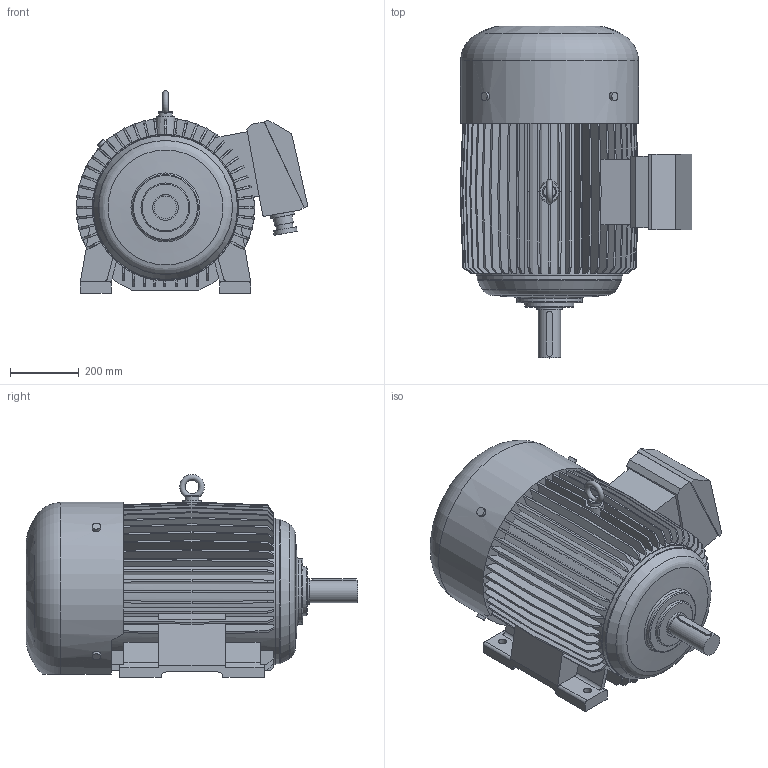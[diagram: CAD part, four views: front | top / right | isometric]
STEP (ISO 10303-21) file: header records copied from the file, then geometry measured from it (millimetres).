
FILE_DESCRIPTION( ( 'Unknown' ), '1' );
FILE_NAME( 'P:/3D_Bry³y silników skatalogowane/2Sg/2Sg250/2Sg250M4.stp', 'Unknown', ( 'Unknown' ), ( 'Unknown' ), 'XStep 1.0', 'Unknown', ' ' );
FILE_SCHEMA( ( 'CONFIG_CONTROL_DESIGN' ) );
Length unit declared in the file: millimetre
Products named in the file (1): 1
Bounding box: 674.26 x 965 x 590 mm (x, y, z)
Volume: 146839115.5 mm3; surface area: 3406618 mm2
Topology: 2 solids, 2 shells, 453 faces, 1282 edges, 853 vertices
Faces by surface type: plane 373, cylinder 63, torus 9, cone 7, bspline 1
Full cylindrical faces by diameter (mm): 24 x4, 25 x4, 40 x3, 48.628 x2, 55.029 x2, 65 x1, 67.566 x2, 68.767 x2, 75 x1, 142.409 x1, 191.411 x1, 420 x1, 425 x1
Entity records: 15127 total; most frequent: CARTESIAN_POINT 3350, ORIENTED_EDGE 2472, DIRECTION 2348, EDGE_CURVE 1236, LINE 966, VECTOR 966, VERTEX_POINT 843, AXIS2_PLACEMENT_3D 691
